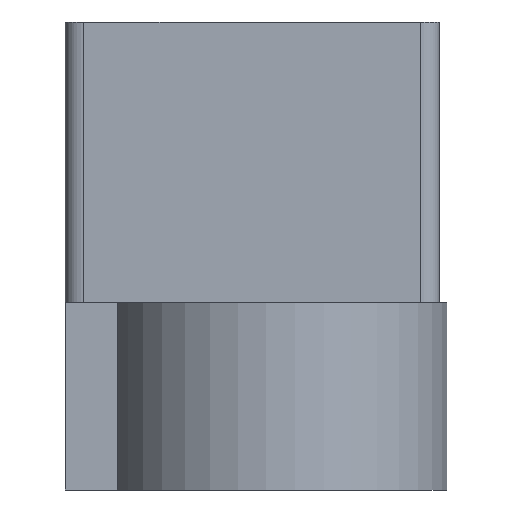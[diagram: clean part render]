
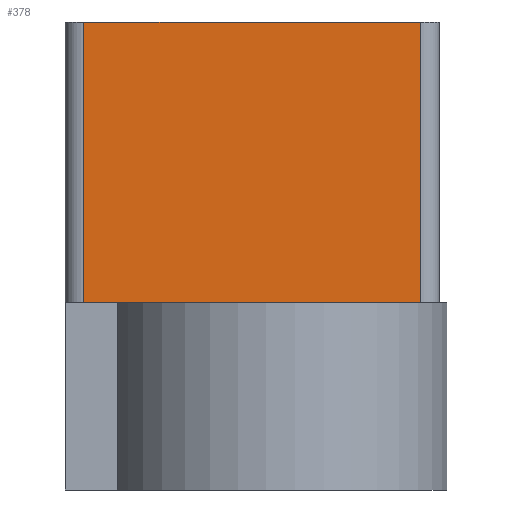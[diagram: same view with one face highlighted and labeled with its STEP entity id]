
A CAD part, left-side view. The second image highlights one B-rep face of the part: STEP entity #378.
In plain terms, the highlighted planar face has unit normal (-1, 0, 0).
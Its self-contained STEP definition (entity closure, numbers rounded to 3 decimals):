
#18=PLANE('',#417);
#33=FACE_OUTER_BOUND('',#52,.T.);
#52=EDGE_LOOP('',(#278,#279,#280,#281,#282,#283));
#76=LINE('',#580,#116);
#79=LINE('',#591,#119);
#80=LINE('',#594,#120);
#81=LINE('',#596,#121);
#82=LINE('',#598,#122);
#83=LINE('',#599,#123);
#116=VECTOR('',#464,10.);
#119=VECTOR('',#475,10.);
#120=VECTOR('',#478,10.);
#121=VECTOR('',#479,10.);
#122=VECTOR('',#480,10.);
#123=VECTOR('',#481,10.);
#173=VERTEX_POINT('',#577);
#174=VERTEX_POINT('',#579);
#178=VERTEX_POINT('',#589);
#179=VERTEX_POINT('',#593);
#180=VERTEX_POINT('',#595);
#181=VERTEX_POINT('',#597);
#211=EDGE_CURVE('',#173,#174,#76,.T.);
#217=EDGE_CURVE('',#178,#173,#79,.T.);
#218=EDGE_CURVE('',#179,#178,#80,.T.);
#219=EDGE_CURVE('',#180,#179,#81,.T.);
#220=EDGE_CURVE('',#181,#180,#82,.T.);
#221=EDGE_CURVE('',#174,#181,#83,.T.);
#278=ORIENTED_EDGE('',*,*,#217,.F.);
#279=ORIENTED_EDGE('',*,*,#218,.F.);
#280=ORIENTED_EDGE('',*,*,#219,.F.);
#281=ORIENTED_EDGE('',*,*,#220,.F.);
#282=ORIENTED_EDGE('',*,*,#221,.F.);
#283=ORIENTED_EDGE('',*,*,#211,.F.);
#378=ADVANCED_FACE('',(#33),#18,.T.);
#417=AXIS2_PLACEMENT_3D('',#592,#476,#477);
#464=DIRECTION('',(0.,-1.,0.));
#475=DIRECTION('',(0.,0.,1.));
#476=DIRECTION('center_axis',(-1.,0.,0.));
#477=DIRECTION('ref_axis',(0.,-1.,0.));
#478=DIRECTION('',(0.,1.,0.));
#479=DIRECTION('',(0.,1.,0.));
#480=DIRECTION('',(0.,1.,0.));
#481=DIRECTION('',(0.,0.,-1.));
#577=CARTESIAN_POINT('',(-3.,20.866,50.));
#579=CARTESIAN_POINT('',(-3.,-15.134,50.));
#580=CARTESIAN_POINT('',(-3.,-17.134,50.));
#589=CARTESIAN_POINT('',(-3.,20.866,20.));
#591=CARTESIAN_POINT('',(-3.,20.866,10.));
#592=CARTESIAN_POINT('Origin',(-3.,22.866,20.));
#593=CARTESIAN_POINT('',(-3.,14.697,20.));
#594=CARTESIAN_POINT('',(-3.,12.65,20.));
#595=CARTESIAN_POINT('',(-3.,-14.697,20.));
#596=CARTESIAN_POINT('',(-3.,-17.134,20.));
#597=CARTESIAN_POINT('',(-3.,-15.134,20.));
#598=CARTESIAN_POINT('',(-3.,12.65,20.));
#599=CARTESIAN_POINT('',(-3.,-15.134,20.));
